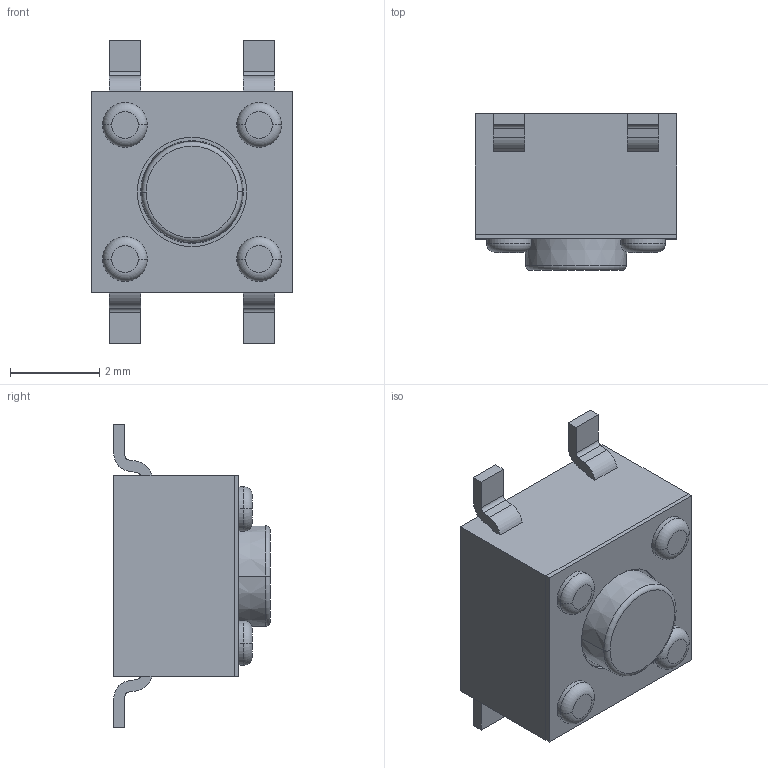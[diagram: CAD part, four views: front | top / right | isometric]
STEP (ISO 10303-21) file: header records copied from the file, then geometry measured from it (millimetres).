
FILE_DESCRIPTION((''),'2;1');
FILE_NAME('JQA4545TP-C0354-01G-1-101_ASM','2026-05-22T16:08:02',('Admin'),(''),'CREO PARAMETRIC BY PTC INC, 2019224','CREO PARAMETRIC BY PTC INC, 2019224','');
FILE_SCHEMA(('AUTOMOTIVE_DESIGN { 1 0 10303 214 1 1 1 1 }'));
Length unit declared in the file: millimetre
Products named in the file (3): JQA4545TP-C0354-01G-1-101_01; JQA4545TP-C0354-01G-1-101_02; JQA4545TP-C0354-01G-1-101_ASM
Assembly tree (2 placements, depth 2):
  JQA4545TP-C0354-01G-1-101_ASM
    JQA4545TP-C0354-01G-1-101_01
    JQA4545TP-C0354-01G-1-101_02
Bounding box: 4.5 x 3.5 x 6.8 mm (x, y, z)
Volume: 61.3 mm3; surface area: 145.9 mm2
Topology: 2 solids, 2 shells, 103 faces, 258 edges, 182 vertices
Faces by surface type: plane 49, cylinder 42, torus 10, cone 2
Entity records: 4558 total; most frequent: DIRECTION 594, CARTESIAN_POINT 541, ORIENTED_EDGE 496, PRESENTATION_STYLE_ASSIGNMENT 269, EDGE_CURVE 248, AXIS2_PLACEMENT_3D 222, STYLED_ITEM 220, CURVE_STYLE 219
